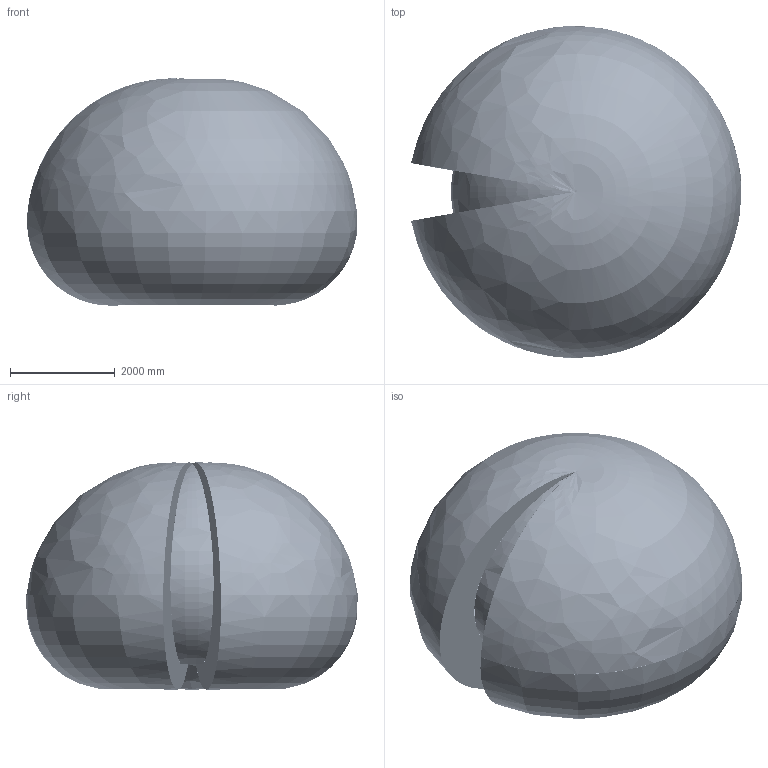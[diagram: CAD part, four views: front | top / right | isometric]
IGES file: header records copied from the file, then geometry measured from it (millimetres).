
Start section: SolidWorks IGES file using analytic representation for surfaces
Global section: file name: C:\Users\SEAMSTO1\OneDrive - ABB\PT\Macro\IGES\IRB6760-MH3_200kg-320_OC_00_IGES_J\IRB6760-MH3_200kg-320_OC_00_ASM_CAD.igs; native system: SolidWorks 2024; preprocessor: SolidWorks 2024; author: SEAMSTO1; date: 250930.151411; units: millimetre
Bounding box: 6287.35 x 6323.86 x 4327.65 mm (x, y, z)
Surface area: 148895442.3 mm2 (no closed solid volume)
Topology: 0 solids, 0 shells, 8847 faces, 141284 edges, 141112 vertices
Faces by surface type: bspline 5124, revolution 3723
